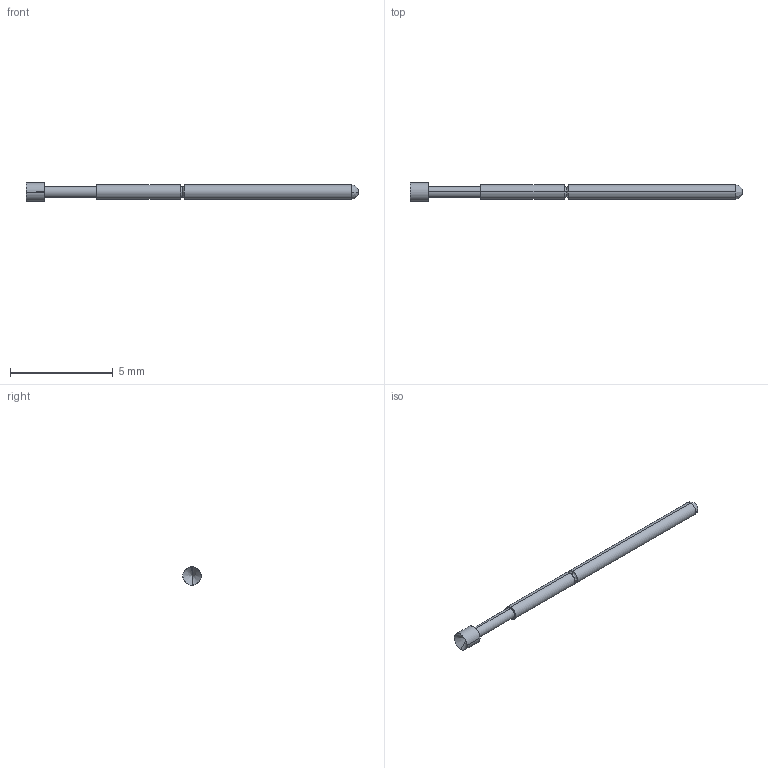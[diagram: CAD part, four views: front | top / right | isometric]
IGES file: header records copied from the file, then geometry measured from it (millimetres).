
Start section: SolidWorks IGES file using analytic representation for surfaces
Global section: file name: F:\OneDrive\Desktop\Coda\24.8\PA1 series, two locations RTP\Completed\PA1A.IGS; native system: SolidWorks 2021; preprocessor: SolidWorks 2021; author: Georg; date: 210824.144018; units: inch
Bounding box: 16.13 x 0.89 x 0.89 mm (x, y, z)
Surface area: 35.7 mm2 (no closed solid volume)
Topology: 0 solids, 0 shells, 19 faces, 152 edges, 150 vertices
Faces by surface type: revolution 10, bspline 9
